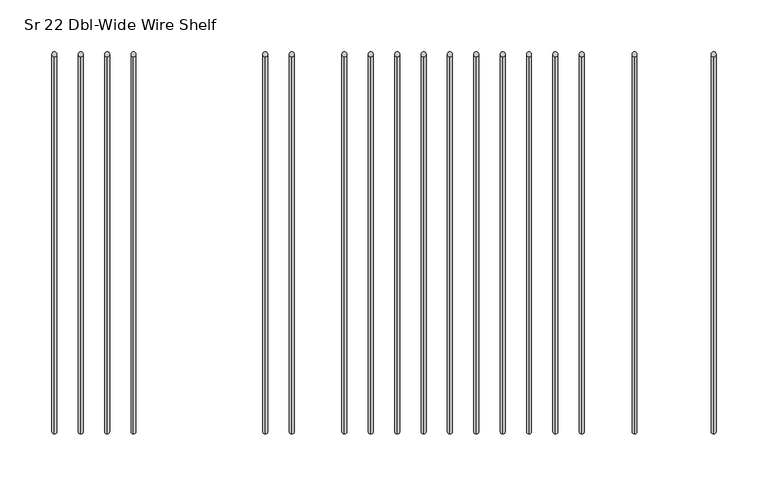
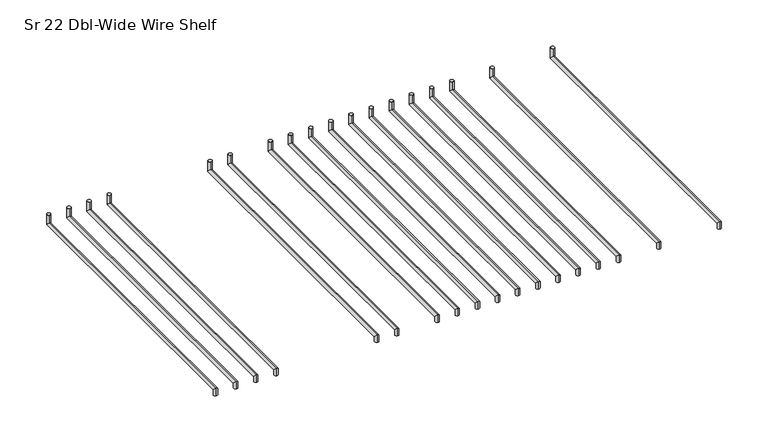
"""IFC4 building model written with IfcOpenShell, lengths in millimetres: furniture geometry, HermanMiller_Carts_CT521_CartShelf : Sr 22 Dbl-Wide Wire Shelf."""

from ifc_helpers import new_model, si_unit, frame, origin, place, context, project, spatial, circle_curve, ellipse_curve, source, transform, mapped, element, save
from ifc_brep_helpers import plane_surface, cylinder_surface, advanced_brep


def sr_22_dbl_wide_wire_shelf_81aa6d03(model_context):
    return source(origin(), model_context, "Body", "AdvancedBrep", [
        advanced_brep(
        [(358.5223083, -206.38135, 2453.2971), (358.5223083, -211.14385, 2453.2971), (358.5223083, -206.38135, 2458.0596), (358.5223083, -211.14385, 2462.8221), (358.5223083, 157.2983379, 2458.0596), (358.5223083, 152.5358379, 2462.8221), (358.5223083, 157.2983379, 2473.3377), (358.5223083, 152.5358379, 2473.3377)],
        [
            (0, 1, circle_curve(frame((358.5223083, -208.7626, 2453.2971), z_axis=(0.0, 0.0, -1.0), x_axis=(0.0, -1.0, 0.0)), 2.38125)),
            (1, 0, circle_curve(frame((358.5223083, -208.7626, 2453.2971), z_axis=(0.0, 0.0, -1.0), x_axis=(0.0, -1.0, 0.0)), 2.38125)),
            (0, 2),
            (2, 3, ellipse_curve(frame((358.5223083, -208.7626, 2460.44085), z_axis=(0.0, -0.7071067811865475, -0.7071067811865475), x_axis=(0.0, 0.7071067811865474, -0.7071067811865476)), 3.367596, 2.38125)),
            (3, 1),
            (3, 2, ellipse_curve(frame((358.5223083, -208.7626, 2460.44085), z_axis=(0.0, -0.7071067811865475, -0.7071067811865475), x_axis=(0.0, 0.7071067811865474, -0.7071067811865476)), 3.367596, 2.38125)),
            (2, 4),
            (4, 5, ellipse_curve(frame((358.5223083, 154.9170879, 2460.44085), z_axis=(0.0, -0.7071067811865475, -0.7071067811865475), x_axis=(0.0, -0.7071067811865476, 0.7071067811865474)), 3.367596, 2.38125)),
            (5, 3),
            (5, 4, ellipse_curve(frame((358.5223083, 154.9170879, 2460.44085), z_axis=(0.0, -0.7071067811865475, -0.7071067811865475), x_axis=(0.0, -0.7071067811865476, 0.7071067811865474)), 3.367596, 2.38125)),
            (6, 7, circle_curve(frame((358.5223083, 154.9170879, 2473.3377), z_axis=(0.0, 0.0, 1.0), x_axis=(0.0, -1.0, 0.0)), 2.38125)),
            (7, 6, circle_curve(frame((358.5223083, 154.9170879, 2473.3377), z_axis=(0.0, 0.0, 1.0), x_axis=(0.0, -1.0, 0.0)), 2.38125)),
            (4, 6),
            (7, 5),
        ],
        [
            plane_surface(frame((358.5223083, -208.7626, 2453.2971), z_axis=(0.0, 0.0, -1.0), x_axis=(1.0, 0.0, 0.0))),
            cylinder_surface(frame((358.5223083, -208.7626, 2453.2971), z_axis=(0.0, 0.0, -1.0), x_axis=(0.0, -1.0, 0.0)), 2.38125),
            cylinder_surface(frame((358.5223083, -208.7626, 2460.44085), z_axis=(0.0, -1.0, 0.0), x_axis=(0.0, 0.0, 1.0)), 2.38125),
            plane_surface(frame((358.5223083, 154.9170879, 2473.3377), z_axis=(0.0, 0.0, 1.0), x_axis=(1.0, 0.0, 0.0))),
            cylinder_surface(frame((358.5223083, 154.9170879, 2460.44085), z_axis=(0.0, 0.0, -1.0), x_axis=(0.0, -1.0, 0.0)), 2.38125),
        ],
        [
            (0, [[1, 2]]),
            (1, [[-1, 3, 4, 5]]),
            (1, [[-2, -5, 6, -3]]),
            (2, [[-4, 7, 8, 9]]),
            (2, [[-6, -9, 10, -7]]),
            (3, [[11, 12]]),
            (4, [[-8, 13, -12, 14]]),
            (4, [[-10, -14, -11, -13]]),
        ],
    ),
        advanced_brep(
        [(282.3223083, -206.38135, 2453.2971), (282.3223083, -211.14385, 2453.2971), (282.3223083, -206.38135, 2458.0596), (282.3223083, -211.14385, 2462.8221), (282.3223083, 157.2983379, 2458.0596), (282.3223083, 152.5358379, 2462.8221), (282.3223083, 157.2983379, 2473.3377), (282.3223083, 152.5358379, 2473.3377)],
        [
            (0, 1, circle_curve(frame((282.3223083, -208.7626, 2453.2971), z_axis=(0.0, 0.0, -1.0), x_axis=(0.0, -1.0, 0.0)), 2.38125)),
            (1, 0, circle_curve(frame((282.3223083, -208.7626, 2453.2971), z_axis=(0.0, 0.0, -1.0), x_axis=(0.0, -1.0, 0.0)), 2.38125)),
            (0, 2),
            (2, 3, ellipse_curve(frame((282.3223083, -208.7626, 2460.44085), z_axis=(0.0, -0.7071067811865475, -0.7071067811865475), x_axis=(0.0, 0.7071067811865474, -0.7071067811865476)), 3.367596, 2.38125)),
            (3, 1),
            (3, 2, ellipse_curve(frame((282.3223083, -208.7626, 2460.44085), z_axis=(0.0, -0.7071067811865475, -0.7071067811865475), x_axis=(0.0, 0.7071067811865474, -0.7071067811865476)), 3.367596, 2.38125)),
            (2, 4),
            (4, 5, ellipse_curve(frame((282.3223083, 154.9170879, 2460.44085), z_axis=(0.0, -0.7071067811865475, -0.7071067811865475), x_axis=(0.0, -0.7071067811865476, 0.7071067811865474)), 3.367596, 2.38125)),
            (5, 3),
            (5, 4, ellipse_curve(frame((282.3223083, 154.9170879, 2460.44085), z_axis=(0.0, -0.7071067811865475, -0.7071067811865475), x_axis=(0.0, -0.7071067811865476, 0.7071067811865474)), 3.367596, 2.38125)),
            (6, 7, circle_curve(frame((282.3223083, 154.9170879, 2473.3377), z_axis=(0.0, 0.0, 1.0), x_axis=(0.0, -1.0, 0.0)), 2.38125)),
            (7, 6, circle_curve(frame((282.3223083, 154.9170879, 2473.3377), z_axis=(0.0, 0.0, 1.0), x_axis=(0.0, -1.0, 0.0)), 2.38125)),
            (4, 6),
            (7, 5),
        ],
        [
            plane_surface(frame((282.3223083, -208.7626, 2453.2971), z_axis=(0.0, 0.0, -1.0), x_axis=(1.0, 0.0, 0.0))),
            cylinder_surface(frame((282.3223083, -208.7626, 2453.2971), z_axis=(0.0, 0.0, -1.0), x_axis=(0.0, -1.0, 0.0)), 2.38125),
            cylinder_surface(frame((282.3223083, -208.7626, 2460.44085), z_axis=(0.0, -1.0, 0.0), x_axis=(0.0, 0.0, 1.0)), 2.38125),
            plane_surface(frame((282.3223083, 154.9170879, 2473.3377), z_axis=(0.0, 0.0, 1.0), x_axis=(1.0, 0.0, 0.0))),
            cylinder_surface(frame((282.3223083, 154.9170879, 2460.44085), z_axis=(0.0, 0.0, -1.0), x_axis=(0.0, -1.0, 0.0)), 2.38125),
        ],
        [
            (0, [[1, 2]]),
            (1, [[-1, 3, 4, 5]]),
            (1, [[-2, -5, 6, -3]]),
            (2, [[-4, 7, 8, 9]]),
            (2, [[-6, -9, 10, -7]]),
            (3, [[11, 12]]),
            (4, [[-8, 13, -12, 14]]),
            (4, [[-10, -14, -11, -13]]),
        ],
    ),
        advanced_brep(
        [(28.3223083, -206.38135, 2453.2971), (28.3223083, -211.14385, 2453.2971), (28.3223083, -206.38135, 2458.0596), (28.3223083, -211.14385, 2462.8221), (28.3223083, 157.2983379, 2458.0596), (28.3223083, 152.5358379, 2462.8221), (28.3223083, 157.2983379, 2473.3377), (28.3223083, 152.5358379, 2473.3377)],
        [
            (0, 1, circle_curve(frame((28.3223083, -208.7626, 2453.2971), z_axis=(0.0, 0.0, -1.0), x_axis=(0.0, -1.0, 0.0)), 2.38125)),
            (1, 0, circle_curve(frame((28.3223083, -208.7626, 2453.2971), z_axis=(0.0, 0.0, -1.0), x_axis=(0.0, -1.0, 0.0)), 2.38125)),
            (0, 2),
            (2, 3, ellipse_curve(frame((28.3223083, -208.7626, 2460.44085), z_axis=(0.0, -0.7071067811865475, -0.7071067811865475), x_axis=(0.0, 0.7071067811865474, -0.7071067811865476)), 3.367596, 2.38125)),
            (3, 1),
            (3, 2, ellipse_curve(frame((28.3223083, -208.7626, 2460.44085), z_axis=(0.0, -0.7071067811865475, -0.7071067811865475), x_axis=(0.0, 0.7071067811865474, -0.7071067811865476)), 3.367596, 2.38125)),
            (2, 4),
            (4, 5, ellipse_curve(frame((28.3223083, 154.9170879, 2460.44085), z_axis=(0.0, -0.7071067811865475, -0.7071067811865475), x_axis=(0.0, -0.7071067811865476, 0.7071067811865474)), 3.367596, 2.38125)),
            (5, 3),
            (5, 4, ellipse_curve(frame((28.3223083, 154.9170879, 2460.44085), z_axis=(0.0, -0.7071067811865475, -0.7071067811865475), x_axis=(0.0, -0.7071067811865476, 0.7071067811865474)), 3.367596, 2.38125)),
            (6, 7, circle_curve(frame((28.3223083, 154.9170879, 2473.3377), z_axis=(0.0, 0.0, 1.0), x_axis=(0.0, -1.0, 0.0)), 2.38125)),
            (7, 6, circle_curve(frame((28.3223083, 154.9170879, 2473.3377), z_axis=(0.0, 0.0, 1.0), x_axis=(0.0, -1.0, 0.0)), 2.38125)),
            (4, 6),
            (7, 5),
        ],
        [
            plane_surface(frame((28.3223083, -208.7626, 2453.2971), z_axis=(0.0, 0.0, -1.0), x_axis=(1.0, 0.0, 0.0))),
            cylinder_surface(frame((28.3223083, -208.7626, 2453.2971), z_axis=(0.0, 0.0, -1.0), x_axis=(0.0, -1.0, 0.0)), 2.38125),
            cylinder_surface(frame((28.3223083, -208.7626, 2460.44085), z_axis=(0.0, -1.0, 0.0), x_axis=(0.0, 0.0, 1.0)), 2.38125),
            plane_surface(frame((28.3223083, 154.9170879, 2473.3377), z_axis=(0.0, 0.0, 1.0), x_axis=(1.0, 0.0, 0.0))),
            cylinder_surface(frame((28.3223083, 154.9170879, 2460.44085), z_axis=(0.0, 0.0, -1.0), x_axis=(0.0, -1.0, 0.0)), 2.38125),
        ],
        [
            (0, [[1, 2]]),
            (1, [[-1, 3, 4, 5]]),
            (1, [[-2, -5, 6, -3]]),
            (2, [[-4, 7, 8, 9]]),
            (2, [[-6, -9, 10, -7]]),
            (3, [[11, 12]]),
            (4, [[-8, 13, -12, 14]]),
            (4, [[-10, -14, -11, -13]]),
        ],
    ),
        advanced_brep(
        [(-47.8776917, -206.38135, 2453.2971), (-47.8776917, -211.14385, 2453.2971), (-47.8776917, -206.38135, 2458.0596), (-47.8776917, -211.14385, 2462.8221), (-47.8776917, 157.2983379, 2458.0596), (-47.8776917, 152.5358379, 2462.8221), (-47.8776917, 157.2983379, 2473.3377), (-47.8776917, 152.5358379, 2473.3377)],
        [
            (0, 1, circle_curve(frame((-47.8776917, -208.7626, 2453.2971), z_axis=(0.0, 0.0, -1.0), x_axis=(0.0, -1.0, 0.0)), 2.38125)),
            (1, 0, circle_curve(frame((-47.8776917, -208.7626, 2453.2971), z_axis=(0.0, 0.0, -1.0), x_axis=(0.0, -1.0, 0.0)), 2.38125)),
            (0, 2),
            (2, 3, ellipse_curve(frame((-47.8776917, -208.7626, 2460.44085), z_axis=(0.0, -0.7071067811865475, -0.7071067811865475), x_axis=(0.0, 0.7071067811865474, -0.7071067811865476)), 3.367596, 2.38125)),
            (3, 1),
            (3, 2, ellipse_curve(frame((-47.8776917, -208.7626, 2460.44085), z_axis=(0.0, -0.7071067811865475, -0.7071067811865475), x_axis=(0.0, 0.7071067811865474, -0.7071067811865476)), 3.367596, 2.38125)),
            (2, 4),
            (4, 5, ellipse_curve(frame((-47.8776917, 154.9170879, 2460.44085), z_axis=(0.0, -0.7071067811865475, -0.7071067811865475), x_axis=(0.0, -0.7071067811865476, 0.7071067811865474)), 3.367596, 2.38125)),
            (5, 3),
            (5, 4, ellipse_curve(frame((-47.8776917, 154.9170879, 2460.44085), z_axis=(0.0, -0.7071067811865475, -0.7071067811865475), x_axis=(0.0, -0.7071067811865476, 0.7071067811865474)), 3.367596, 2.38125)),
            (6, 7, circle_curve(frame((-47.8776917, 154.9170879, 2473.3377), z_axis=(0.0, 0.0, 1.0), x_axis=(0.0, -1.0, 0.0)), 2.38125)),
            (7, 6, circle_curve(frame((-47.8776917, 154.9170879, 2473.3377), z_axis=(0.0, 0.0, 1.0), x_axis=(0.0, -1.0, 0.0)), 2.38125)),
            (4, 6),
            (7, 5),
        ],
        [
            plane_surface(frame((-47.8776917, -208.7626, 2453.2971), z_axis=(0.0, 0.0, -1.0), x_axis=(1.0, 0.0, 0.0))),
            cylinder_surface(frame((-47.8776917, -208.7626, 2453.2971), z_axis=(0.0, 0.0, -1.0), x_axis=(0.0, -1.0, 0.0)), 2.38125),
            cylinder_surface(frame((-47.8776917, -208.7626, 2460.44085), z_axis=(0.0, -1.0, 0.0), x_axis=(0.0, 0.0, 1.0)), 2.38125),
            plane_surface(frame((-47.8776917, 154.9170879, 2473.3377), z_axis=(0.0, 0.0, 1.0), x_axis=(1.0, 0.0, 0.0))),
            cylinder_surface(frame((-47.8776917, 154.9170879, 2460.44085), z_axis=(0.0, 0.0, -1.0), x_axis=(0.0, -1.0, 0.0)), 2.38125),
        ],
        [
            (0, [[1, 2]]),
            (1, [[-1, 3, 4, 5]]),
            (1, [[-2, -5, 6, -3]]),
            (2, [[-4, 7, 8, 9]]),
            (2, [[-6, -9, 10, -7]]),
            (3, [[11, 12]]),
            (4, [[-8, 13, -12, 14]]),
            (4, [[-10, -14, -11, -13]]),
        ],
    ),
        advanced_brep(
        [(-73.2776917, -206.38135, 2453.2971), (-73.2776917, -211.14385, 2453.2971), (-73.2776917, -206.38135, 2458.0596), (-73.2776917, -211.14385, 2462.8221), (-73.2776917, 157.2983379, 2458.0596), (-73.2776917, 152.5358379, 2462.8221), (-73.2776917, 157.2983379, 2473.3377), (-73.2776917, 152.5358379, 2473.3377)],
        [
            (0, 1, circle_curve(frame((-73.2776917, -208.7626, 2453.2971), z_axis=(0.0, 0.0, -1.0), x_axis=(0.0, -1.0, 0.0)), 2.38125)),
            (1, 0, circle_curve(frame((-73.2776917, -208.7626, 2453.2971), z_axis=(0.0, 0.0, -1.0), x_axis=(0.0, -1.0, 0.0)), 2.38125)),
            (0, 2),
            (2, 3, ellipse_curve(frame((-73.2776917, -208.7626, 2460.44085), z_axis=(0.0, -0.7071067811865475, -0.7071067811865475), x_axis=(0.0, 0.7071067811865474, -0.7071067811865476)), 3.367596, 2.38125)),
            (3, 1),
            (3, 2, ellipse_curve(frame((-73.2776917, -208.7626, 2460.44085), z_axis=(0.0, -0.7071067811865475, -0.7071067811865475), x_axis=(0.0, 0.7071067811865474, -0.7071067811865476)), 3.367596, 2.38125)),
            (2, 4),
            (4, 5, ellipse_curve(frame((-73.2776917, 154.9170879, 2460.44085), z_axis=(0.0, -0.7071067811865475, -0.7071067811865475), x_axis=(0.0, -0.7071067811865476, 0.7071067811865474)), 3.367596, 2.38125)),
            (5, 3),
            (5, 4, ellipse_curve(frame((-73.2776917, 154.9170879, 2460.44085), z_axis=(0.0, -0.7071067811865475, -0.7071067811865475), x_axis=(0.0, -0.7071067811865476, 0.7071067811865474)), 3.367596, 2.38125)),
            (6, 7, circle_curve(frame((-73.2776917, 154.9170879, 2473.3377), z_axis=(0.0, 0.0, 1.0), x_axis=(0.0, -1.0, 0.0)), 2.38125)),
            (7, 6, circle_curve(frame((-73.2776917, 154.9170879, 2473.3377), z_axis=(0.0, 0.0, 1.0), x_axis=(0.0, -1.0, 0.0)), 2.38125)),
            (4, 6),
            (7, 5),
        ],
        [
            plane_surface(frame((-73.2776917, -208.7626, 2453.2971), z_axis=(0.0, 0.0, -1.0), x_axis=(1.0, 0.0, 0.0))),
            cylinder_surface(frame((-73.2776917, -208.7626, 2453.2971), z_axis=(0.0, 0.0, -1.0), x_axis=(0.0, -1.0, 0.0)), 2.38125),
            cylinder_surface(frame((-73.2776917, -208.7626, 2460.44085), z_axis=(0.0, -1.0, 0.0), x_axis=(0.0, 0.0, 1.0)), 2.38125),
            plane_surface(frame((-73.2776917, 154.9170879, 2473.3377), z_axis=(0.0, 0.0, 1.0), x_axis=(1.0, 0.0, 0.0))),
            cylinder_surface(frame((-73.2776917, 154.9170879, 2460.44085), z_axis=(0.0, 0.0, -1.0), x_axis=(0.0, -1.0, 0.0)), 2.38125),
        ],
        [
            (0, [[1, 2]]),
            (1, [[-1, 3, 4, 5]]),
            (1, [[-2, -5, 6, -3]]),
            (2, [[-4, 7, 8, 9]]),
            (2, [[-6, -9, 10, -7]]),
            (3, [[11, 12]]),
            (4, [[-8, 13, -12, 14]]),
            (4, [[-10, -14, -11, -13]]),
        ],
    ),
        advanced_brep(
        [(2.9223083, -206.38135, 2453.2971), (2.9223083, -211.14385, 2453.2971), (2.9223083, -206.38135, 2458.0596), (2.9223083, -211.14385, 2462.8221), (2.9223083, 157.2983379, 2458.0596), (2.9223083, 152.5358379, 2462.8221), (2.9223083, 157.2983379, 2473.3377), (2.9223083, 152.5358379, 2473.3377)],
        [
            (0, 1, circle_curve(frame((2.9223083, -208.7626, 2453.2971), z_axis=(0.0, 0.0, -1.0), x_axis=(0.0, -1.0, 0.0)), 2.38125)),
            (1, 0, circle_curve(frame((2.9223083, -208.7626, 2453.2971), z_axis=(0.0, 0.0, -1.0), x_axis=(0.0, -1.0, 0.0)), 2.38125)),
            (0, 2),
            (2, 3, ellipse_curve(frame((2.9223083, -208.7626, 2460.44085), z_axis=(0.0, -0.7071067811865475, -0.7071067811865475), x_axis=(0.0, 0.7071067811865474, -0.7071067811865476)), 3.367596, 2.38125)),
            (3, 1),
            (3, 2, ellipse_curve(frame((2.9223083, -208.7626, 2460.44085), z_axis=(0.0, -0.7071067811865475, -0.7071067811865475), x_axis=(0.0, 0.7071067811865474, -0.7071067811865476)), 3.367596, 2.38125)),
            (2, 4),
            (4, 5, ellipse_curve(frame((2.9223083, 154.9170879, 2460.44085), z_axis=(0.0, -0.7071067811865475, -0.7071067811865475), x_axis=(0.0, -0.7071067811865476, 0.7071067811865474)), 3.367596, 2.38125)),
            (5, 3),
            (5, 4, ellipse_curve(frame((2.9223083, 154.9170879, 2460.44085), z_axis=(0.0, -0.7071067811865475, -0.7071067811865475), x_axis=(0.0, -0.7071067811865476, 0.7071067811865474)), 3.367596, 2.38125)),
            (6, 7, circle_curve(frame((2.9223083, 154.9170879, 2473.3377), z_axis=(0.0, 0.0, 1.0), x_axis=(0.0, -1.0, 0.0)), 2.38125)),
            (7, 6, circle_curve(frame((2.9223083, 154.9170879, 2473.3377), z_axis=(0.0, 0.0, 1.0), x_axis=(0.0, -1.0, 0.0)), 2.38125)),
            (4, 6),
            (7, 5),
        ],
        [
            plane_surface(frame((2.9223083, -208.7626, 2453.2971), z_axis=(0.0, 0.0, -1.0), x_axis=(1.0, 0.0, 0.0))),
            cylinder_surface(frame((2.9223083, -208.7626, 2453.2971), z_axis=(0.0, 0.0, -1.0), x_axis=(0.0, -1.0, 0.0)), 2.38125),
            cylinder_surface(frame((2.9223083, -208.7626, 2460.44085), z_axis=(0.0, -1.0, 0.0), x_axis=(0.0, 0.0, 1.0)), 2.38125),
            plane_surface(frame((2.9223083, 154.9170879, 2473.3377), z_axis=(0.0, 0.0, 1.0), x_axis=(1.0, 0.0, 0.0))),
            cylinder_surface(frame((2.9223083, 154.9170879, 2460.44085), z_axis=(0.0, 0.0, -1.0), x_axis=(0.0, -1.0, 0.0)), 2.38125),
        ],
        [
            (0, [[1, 2]]),
            (1, [[-1, 3, 4, 5]]),
            (1, [[-2, -5, 6, -3]]),
            (2, [[-4, 7, 8, 9]]),
            (2, [[-6, -9, 10, -7]]),
            (3, [[11, 12]]),
            (4, [[-8, 13, -12, 14]]),
            (4, [[-10, -14, -11, -13]]),
        ],
    ),
        advanced_brep(
        [(53.7223083, -206.38135, 2453.2971), (53.7223083, -211.14385, 2453.2971), (53.7223083, -206.38135, 2458.0596), (53.7223083, -211.14385, 2462.8221), (53.7223083, 157.2983379, 2458.0596), (53.7223083, 152.5358379, 2462.8221), (53.7223083, 157.2983379, 2473.3377), (53.7223083, 152.5358379, 2473.3377)],
        [
            (0, 1, circle_curve(frame((53.7223083, -208.7626, 2453.2971), z_axis=(0.0, 0.0, -1.0), x_axis=(0.0, -1.0, 0.0)), 2.38125)),
            (1, 0, circle_curve(frame((53.7223083, -208.7626, 2453.2971), z_axis=(0.0, 0.0, -1.0), x_axis=(0.0, -1.0, 0.0)), 2.38125)),
            (0, 2),
            (2, 3, ellipse_curve(frame((53.7223083, -208.7626, 2460.44085), z_axis=(0.0, -0.7071067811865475, -0.7071067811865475), x_axis=(0.0, 0.7071067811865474, -0.7071067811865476)), 3.367596, 2.38125)),
            (3, 1),
            (3, 2, ellipse_curve(frame((53.7223083, -208.7626, 2460.44085), z_axis=(0.0, -0.7071067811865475, -0.7071067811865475), x_axis=(0.0, 0.7071067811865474, -0.7071067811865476)), 3.367596, 2.38125)),
            (2, 4),
            (4, 5, ellipse_curve(frame((53.7223083, 154.9170879, 2460.44085), z_axis=(0.0, -0.7071067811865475, -0.7071067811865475), x_axis=(0.0, -0.7071067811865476, 0.7071067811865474)), 3.367596, 2.38125)),
            (5, 3),
            (5, 4, ellipse_curve(frame((53.7223083, 154.9170879, 2460.44085), z_axis=(0.0, -0.7071067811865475, -0.7071067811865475), x_axis=(0.0, -0.7071067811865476, 0.7071067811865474)), 3.367596, 2.38125)),
            (6, 7, circle_curve(frame((53.7223083, 154.9170879, 2473.3377), z_axis=(0.0, 0.0, 1.0), x_axis=(0.0, -1.0, 0.0)), 2.38125)),
            (7, 6, circle_curve(frame((53.7223083, 154.9170879, 2473.3377), z_axis=(0.0, 0.0, 1.0), x_axis=(0.0, -1.0, 0.0)), 2.38125)),
            (4, 6),
            (7, 5),
        ],
        [
            plane_surface(frame((53.7223083, -208.7626, 2453.2971), z_axis=(0.0, 0.0, -1.0), x_axis=(1.0, 0.0, 0.0))),
            cylinder_surface(frame((53.7223083, -208.7626, 2453.2971), z_axis=(0.0, 0.0, -1.0), x_axis=(0.0, -1.0, 0.0)), 2.38125),
            cylinder_surface(frame((53.7223083, -208.7626, 2460.44085), z_axis=(0.0, -1.0, 0.0), x_axis=(0.0, 0.0, 1.0)), 2.38125),
            plane_surface(frame((53.7223083, 154.9170879, 2473.3377), z_axis=(0.0, 0.0, 1.0), x_axis=(1.0, 0.0, 0.0))),
            cylinder_surface(frame((53.7223083, 154.9170879, 2460.44085), z_axis=(0.0, 0.0, -1.0), x_axis=(0.0, -1.0, 0.0)), 2.38125),
        ],
        [
            (0, [[1, 2]]),
            (1, [[-1, 3, 4, 5]]),
            (1, [[-2, -5, 6, -3]]),
            (2, [[-4, 7, 8, 9]]),
            (2, [[-6, -9, 10, -7]]),
            (3, [[11, 12]]),
            (4, [[-8, 13, -12, 14]]),
            (4, [[-10, -14, -11, -13]]),
        ],
    ),
        advanced_brep(
        [(79.1223083, -206.38135, 2453.2971), (79.1223083, -211.14385, 2453.2971), (79.1223083, -206.38135, 2458.0596), (79.1223083, -211.14385, 2462.8221), (79.1223083, 157.2983379, 2458.0596), (79.1223083, 152.5358379, 2462.8221), (79.1223083, 157.2983379, 2473.3377), (79.1223083, 152.5358379, 2473.3377)],
        [
            (0, 1, circle_curve(frame((79.1223083, -208.7626, 2453.2971), z_axis=(0.0, 0.0, -1.0), x_axis=(0.0, -1.0, 0.0)), 2.38125)),
            (1, 0, circle_curve(frame((79.1223083, -208.7626, 2453.2971), z_axis=(0.0, 0.0, -1.0), x_axis=(0.0, -1.0, 0.0)), 2.38125)),
            (0, 2),
            (2, 3, ellipse_curve(frame((79.1223083, -208.7626, 2460.44085), z_axis=(0.0, -0.7071067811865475, -0.7071067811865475), x_axis=(0.0, 0.7071067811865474, -0.7071067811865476)), 3.367596, 2.38125)),
            (3, 1),
            (3, 2, ellipse_curve(frame((79.1223083, -208.7626, 2460.44085), z_axis=(0.0, -0.7071067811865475, -0.7071067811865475), x_axis=(0.0, 0.7071067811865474, -0.7071067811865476)), 3.367596, 2.38125)),
            (2, 4),
            (4, 5, ellipse_curve(frame((79.1223083, 154.9170879, 2460.44085), z_axis=(0.0, -0.7071067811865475, -0.7071067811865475), x_axis=(0.0, -0.7071067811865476, 0.7071067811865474)), 3.367596, 2.38125)),
            (5, 3),
            (5, 4, ellipse_curve(frame((79.1223083, 154.9170879, 2460.44085), z_axis=(0.0, -0.7071067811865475, -0.7071067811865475), x_axis=(0.0, -0.7071067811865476, 0.7071067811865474)), 3.367596, 2.38125)),
            (6, 7, circle_curve(frame((79.1223083, 154.9170879, 2473.3377), z_axis=(0.0, 0.0, 1.0), x_axis=(0.0, -1.0, 0.0)), 2.38125)),
            (7, 6, circle_curve(frame((79.1223083, 154.9170879, 2473.3377), z_axis=(0.0, 0.0, 1.0), x_axis=(0.0, -1.0, 0.0)), 2.38125)),
            (4, 6),
            (7, 5),
        ],
        [
            plane_surface(frame((79.1223083, -208.7626, 2453.2971), z_axis=(0.0, 0.0, -1.0), x_axis=(1.0, 0.0, 0.0))),
            cylinder_surface(frame((79.1223083, -208.7626, 2453.2971), z_axis=(0.0, 0.0, -1.0), x_axis=(0.0, -1.0, 0.0)), 2.38125),
            cylinder_surface(frame((79.1223083, -208.7626, 2460.44085), z_axis=(0.0, -1.0, 0.0), x_axis=(0.0, 0.0, 1.0)), 2.38125),
            plane_surface(frame((79.1223083, 154.9170879, 2473.3377), z_axis=(0.0, 0.0, 1.0), x_axis=(1.0, 0.0, 0.0))),
            cylinder_surface(frame((79.1223083, 154.9170879, 2460.44085), z_axis=(0.0, 0.0, -1.0), x_axis=(0.0, -1.0, 0.0)), 2.38125),
        ],
        [
            (0, [[1, 2]]),
            (1, [[-1, 3, 4, 5]]),
            (1, [[-2, -5, 6, -3]]),
            (2, [[-4, 7, 8, 9]]),
            (2, [[-6, -9, 10, -7]]),
            (3, [[11, 12]]),
            (4, [[-8, 13, -12, 14]]),
            (4, [[-10, -14, -11, -13]]),
        ],
    ),
        advanced_brep(
        [(104.5223083, -206.38135, 2453.2971), (104.5223083, -211.14385, 2453.2971), (104.5223083, -206.38135, 2458.0596), (104.5223083, -211.14385, 2462.8221), (104.5223083, 157.2983379, 2458.0596), (104.5223083, 152.5358379, 2462.8221), (104.5223083, 157.2983379, 2473.3377), (104.5223083, 152.5358379, 2473.3377)],
        [
            (0, 1, circle_curve(frame((104.5223083, -208.7626, 2453.2971), z_axis=(0.0, 0.0, -1.0), x_axis=(0.0, -1.0, 0.0)), 2.38125)),
            (1, 0, circle_curve(frame((104.5223083, -208.7626, 2453.2971), z_axis=(0.0, 0.0, -1.0), x_axis=(0.0, -1.0, 0.0)), 2.38125)),
            (0, 2),
            (2, 3, ellipse_curve(frame((104.5223083, -208.7626, 2460.44085), z_axis=(0.0, -0.7071067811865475, -0.7071067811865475), x_axis=(0.0, 0.7071067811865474, -0.7071067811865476)), 3.367596, 2.38125)),
            (3, 1),
            (3, 2, ellipse_curve(frame((104.5223083, -208.7626, 2460.44085), z_axis=(0.0, -0.7071067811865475, -0.7071067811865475), x_axis=(0.0, 0.7071067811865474, -0.7071067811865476)), 3.367596, 2.38125)),
            (2, 4),
            (4, 5, ellipse_curve(frame((104.5223083, 154.9170879, 2460.44085), z_axis=(0.0, -0.7071067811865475, -0.7071067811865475), x_axis=(0.0, -0.7071067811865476, 0.7071067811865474)), 3.367596, 2.38125)),
            (5, 3),
            (5, 4, ellipse_curve(frame((104.5223083, 154.9170879, 2460.44085), z_axis=(0.0, -0.7071067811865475, -0.7071067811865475), x_axis=(0.0, -0.7071067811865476, 0.7071067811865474)), 3.367596, 2.38125)),
            (6, 7, circle_curve(frame((104.5223083, 154.9170879, 2473.3377), z_axis=(0.0, 0.0, 1.0), x_axis=(0.0, -1.0, 0.0)), 2.38125)),
            (7, 6, circle_curve(frame((104.5223083, 154.9170879, 2473.3377), z_axis=(0.0, 0.0, 1.0), x_axis=(0.0, -1.0, 0.0)), 2.38125)),
            (4, 6),
            (7, 5),
        ],
        [
            plane_surface(frame((104.5223083, -208.7626, 2453.2971), z_axis=(0.0, 0.0, -1.0), x_axis=(1.0, 0.0, 0.0))),
            cylinder_surface(frame((104.5223083, -208.7626, 2453.2971), z_axis=(0.0, 0.0, -1.0), x_axis=(0.0, -1.0, 0.0)), 2.38125),
            cylinder_surface(frame((104.5223083, -208.7626, 2460.44085), z_axis=(0.0, -1.0, 0.0), x_axis=(0.0, 0.0, 1.0)), 2.38125),
            plane_surface(frame((104.5223083, 154.9170879, 2473.3377), z_axis=(0.0, 0.0, 1.0), x_axis=(1.0, 0.0, 0.0))),
            cylinder_surface(frame((104.5223083, 154.9170879, 2460.44085), z_axis=(0.0, 0.0, -1.0), x_axis=(0.0, -1.0, 0.0)), 2.38125),
        ],
        [
            (0, [[1, 2]]),
            (1, [[-1, 3, 4, 5]]),
            (1, [[-2, -5, 6, -3]]),
            (2, [[-4, 7, 8, 9]]),
            (2, [[-6, -9, 10, -7]]),
            (3, [[11, 12]]),
            (4, [[-8, 13, -12, 14]]),
            (4, [[-10, -14, -11, -13]]),
        ],
    ),
        advanced_brep(
        [(129.9223083, -206.38135, 2453.2971), (129.9223083, -211.14385, 2453.2971), (129.9223083, -206.38135, 2458.0596), (129.9223083, -211.14385, 2462.8221), (129.9223083, 157.2983379, 2458.0596), (129.9223083, 152.5358379, 2462.8221), (129.9223083, 157.2983379, 2473.3377), (129.9223083, 152.5358379, 2473.3377)],
        [
            (0, 1, circle_curve(frame((129.9223083, -208.7626, 2453.2971), z_axis=(0.0, 0.0, -1.0), x_axis=(0.0, -1.0, 0.0)), 2.38125)),
            (1, 0, circle_curve(frame((129.9223083, -208.7626, 2453.2971), z_axis=(0.0, 0.0, -1.0), x_axis=(0.0, -1.0, 0.0)), 2.38125)),
            (0, 2),
            (2, 3, ellipse_curve(frame((129.9223083, -208.7626, 2460.44085), z_axis=(0.0, -0.7071067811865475, -0.7071067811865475), x_axis=(0.0, 0.7071067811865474, -0.7071067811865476)), 3.367596, 2.38125)),
            (3, 1),
            (3, 2, ellipse_curve(frame((129.9223083, -208.7626, 2460.44085), z_axis=(0.0, -0.7071067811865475, -0.7071067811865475), x_axis=(0.0, 0.7071067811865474, -0.7071067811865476)), 3.367596, 2.38125)),
            (2, 4),
            (4, 5, ellipse_curve(frame((129.9223083, 154.9170879, 2460.44085), z_axis=(0.0, -0.7071067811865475, -0.7071067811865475), x_axis=(0.0, -0.7071067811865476, 0.7071067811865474)), 3.367596, 2.38125)),
            (5, 3),
            (5, 4, ellipse_curve(frame((129.9223083, 154.9170879, 2460.44085), z_axis=(0.0, -0.7071067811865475, -0.7071067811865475), x_axis=(0.0, -0.7071067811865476, 0.7071067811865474)), 3.367596, 2.38125)),
            (6, 7, circle_curve(frame((129.9223083, 154.9170879, 2473.3377), z_axis=(0.0, 0.0, 1.0), x_axis=(0.0, -1.0, 0.0)), 2.38125)),
            (7, 6, circle_curve(frame((129.9223083, 154.9170879, 2473.3377), z_axis=(0.0, 0.0, 1.0), x_axis=(0.0, -1.0, 0.0)), 2.38125)),
            (4, 6),
            (7, 5),
        ],
        [
            plane_surface(frame((129.9223083, -208.7626, 2453.2971), z_axis=(0.0, 0.0, -1.0), x_axis=(1.0, 0.0, 0.0))),
            cylinder_surface(frame((129.9223083, -208.7626, 2453.2971), z_axis=(0.0, 0.0, -1.0), x_axis=(0.0, -1.0, 0.0)), 2.38125),
            cylinder_surface(frame((129.9223083, -208.7626, 2460.44085), z_axis=(0.0, -1.0, 0.0), x_axis=(0.0, 0.0, 1.0)), 2.38125),
            plane_surface(frame((129.9223083, 154.9170879, 2473.3377), z_axis=(0.0, 0.0, 1.0), x_axis=(1.0, 0.0, 0.0))),
            cylinder_surface(frame((129.9223083, 154.9170879, 2460.44085), z_axis=(0.0, 0.0, -1.0), x_axis=(0.0, -1.0, 0.0)), 2.38125),
        ],
        [
            (0, [[1, 2]]),
            (1, [[-1, 3, 4, 5]]),
            (1, [[-2, -5, 6, -3]]),
            (2, [[-4, 7, 8, 9]]),
            (2, [[-6, -9, 10, -7]]),
            (3, [[11, 12]]),
            (4, [[-8, 13, -12, 14]]),
            (4, [[-10, -14, -11, -13]]),
        ],
    ),
        advanced_brep(
        [(155.3223083, -206.38135, 2453.2971), (155.3223083, -211.14385, 2453.2971), (155.3223083, -206.38135, 2458.0596), (155.3223083, -211.14385, 2462.8221), (155.3223083, 157.2983379, 2458.0596), (155.3223083, 152.5358379, 2462.8221), (155.3223083, 157.2983379, 2473.3377), (155.3223083, 152.5358379, 2473.3377)],
        [
            (0, 1, circle_curve(frame((155.3223083, -208.7626, 2453.2971), z_axis=(0.0, 0.0, -1.0), x_axis=(0.0, -1.0, 0.0)), 2.38125)),
            (1, 0, circle_curve(frame((155.3223083, -208.7626, 2453.2971), z_axis=(0.0, 0.0, -1.0), x_axis=(0.0, -1.0, 0.0)), 2.38125)),
            (0, 2),
            (2, 3, ellipse_curve(frame((155.3223083, -208.7626, 2460.44085), z_axis=(0.0, -0.7071067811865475, -0.7071067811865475), x_axis=(0.0, 0.7071067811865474, -0.7071067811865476)), 3.367596, 2.38125)),
            (3, 1),
            (3, 2, ellipse_curve(frame((155.3223083, -208.7626, 2460.44085), z_axis=(0.0, -0.7071067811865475, -0.7071067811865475), x_axis=(0.0, 0.7071067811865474, -0.7071067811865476)), 3.367596, 2.38125)),
            (2, 4),
            (4, 5, ellipse_curve(frame((155.3223083, 154.9170879, 2460.44085), z_axis=(0.0, -0.7071067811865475, -0.7071067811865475), x_axis=(0.0, -0.7071067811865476, 0.7071067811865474)), 3.367596, 2.38125)),
            (5, 3),
            (5, 4, ellipse_curve(frame((155.3223083, 154.9170879, 2460.44085), z_axis=(0.0, -0.7071067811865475, -0.7071067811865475), x_axis=(0.0, -0.7071067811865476, 0.7071067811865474)), 3.367596, 2.38125)),
            (6, 7, circle_curve(frame((155.3223083, 154.9170879, 2473.3377), z_axis=(0.0, 0.0, 1.0), x_axis=(0.0, -1.0, 0.0)), 2.38125)),
            (7, 6, circle_curve(frame((155.3223083, 154.9170879, 2473.3377), z_axis=(0.0, 0.0, 1.0), x_axis=(0.0, -1.0, 0.0)), 2.38125)),
            (4, 6),
            (7, 5),
        ],
        [
            plane_surface(frame((155.3223083, -208.7626, 2453.2971), z_axis=(0.0, 0.0, -1.0), x_axis=(1.0, 0.0, 0.0))),
            cylinder_surface(frame((155.3223083, -208.7626, 2453.2971), z_axis=(0.0, 0.0, -1.0), x_axis=(0.0, -1.0, 0.0)), 2.38125),
            cylinder_surface(frame((155.3223083, -208.7626, 2460.44085), z_axis=(0.0, -1.0, 0.0), x_axis=(0.0, 0.0, 1.0)), 2.38125),
            plane_surface(frame((155.3223083, 154.9170879, 2473.3377), z_axis=(0.0, 0.0, 1.0), x_axis=(1.0, 0.0, 0.0))),
            cylinder_surface(frame((155.3223083, 154.9170879, 2460.44085), z_axis=(0.0, 0.0, -1.0), x_axis=(0.0, -1.0, 0.0)), 2.38125),
        ],
        [
            (0, [[1, 2]]),
            (1, [[-1, 3, 4, 5]]),
            (1, [[-2, -5, 6, -3]]),
            (2, [[-4, 7, 8, 9]]),
            (2, [[-6, -9, 10, -7]]),
            (3, [[11, 12]]),
            (4, [[-8, 13, -12, 14]]),
            (4, [[-10, -14, -11, -13]]),
        ],
    ),
        advanced_brep(
        [(180.7223083, -206.38135, 2453.2971), (180.7223083, -211.14385, 2453.2971), (180.7223083, -206.38135, 2458.0596), (180.7223083, -211.14385, 2462.8221), (180.7223083, 157.2983379, 2458.0596), (180.7223083, 152.5358379, 2462.8221), (180.7223083, 157.2983379, 2473.3377), (180.7223083, 152.5358379, 2473.3377)],
        [
            (0, 1, circle_curve(frame((180.7223083, -208.7626, 2453.2971), z_axis=(0.0, 0.0, -1.0), x_axis=(0.0, -1.0, 0.0)), 2.38125)),
            (1, 0, circle_curve(frame((180.7223083, -208.7626, 2453.2971), z_axis=(0.0, 0.0, -1.0), x_axis=(0.0, -1.0, 0.0)), 2.38125)),
            (0, 2),
            (2, 3, ellipse_curve(frame((180.7223083, -208.7626, 2460.44085), z_axis=(0.0, -0.7071067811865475, -0.7071067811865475), x_axis=(0.0, 0.7071067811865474, -0.7071067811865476)), 3.367596, 2.38125)),
            (3, 1),
            (3, 2, ellipse_curve(frame((180.7223083, -208.7626, 2460.44085), z_axis=(0.0, -0.7071067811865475, -0.7071067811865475), x_axis=(0.0, 0.7071067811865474, -0.7071067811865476)), 3.367596, 2.38125)),
            (2, 4),
            (4, 5, ellipse_curve(frame((180.7223083, 154.9170879, 2460.44085), z_axis=(0.0, -0.7071067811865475, -0.7071067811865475), x_axis=(0.0, -0.7071067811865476, 0.7071067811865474)), 3.367596, 2.38125)),
            (5, 3),
            (5, 4, ellipse_curve(frame((180.7223083, 154.9170879, 2460.44085), z_axis=(0.0, -0.7071067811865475, -0.7071067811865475), x_axis=(0.0, -0.7071067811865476, 0.7071067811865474)), 3.367596, 2.38125)),
            (6, 7, circle_curve(frame((180.7223083, 154.9170879, 2473.3377), z_axis=(0.0, 0.0, 1.0), x_axis=(0.0, -1.0, 0.0)), 2.38125)),
            (7, 6, circle_curve(frame((180.7223083, 154.9170879, 2473.3377), z_axis=(0.0, 0.0, 1.0), x_axis=(0.0, -1.0, 0.0)), 2.38125)),
            (4, 6),
            (7, 5),
        ],
        [
            plane_surface(frame((180.7223083, -208.7626, 2453.2971), z_axis=(0.0, 0.0, -1.0), x_axis=(1.0, 0.0, 0.0))),
            cylinder_surface(frame((180.7223083, -208.7626, 2453.2971), z_axis=(0.0, 0.0, -1.0), x_axis=(0.0, -1.0, 0.0)), 2.38125),
            cylinder_surface(frame((180.7223083, -208.7626, 2460.44085), z_axis=(0.0, -1.0, 0.0), x_axis=(0.0, 0.0, 1.0)), 2.38125),
            plane_surface(frame((180.7223083, 154.9170879, 2473.3377), z_axis=(0.0, 0.0, 1.0), x_axis=(1.0, 0.0, 0.0))),
            cylinder_surface(frame((180.7223083, 154.9170879, 2460.44085), z_axis=(0.0, 0.0, -1.0), x_axis=(0.0, -1.0, 0.0)), 2.38125),
        ],
        [
            (0, [[1, 2]]),
            (1, [[-1, 3, 4, 5]]),
            (1, [[-2, -5, 6, -3]]),
            (2, [[-4, 7, 8, 9]]),
            (2, [[-6, -9, 10, -7]]),
            (3, [[11, 12]]),
            (4, [[-8, 13, -12, 14]]),
            (4, [[-10, -14, -11, -13]]),
        ],
    ),
        advanced_brep(
        [(206.1223083, -206.38135, 2453.2971), (206.1223083, -211.14385, 2453.2971), (206.1223083, -206.38135, 2458.0596), (206.1223083, -211.14385, 2462.8221), (206.1223083, 157.2983379, 2458.0596), (206.1223083, 152.5358379, 2462.8221), (206.1223083, 157.2983379, 2473.3377), (206.1223083, 152.5358379, 2473.3377)],
        [
            (0, 1, circle_curve(frame((206.1223083, -208.7626, 2453.2971), z_axis=(0.0, 0.0, -1.0), x_axis=(0.0, -1.0, 0.0)), 2.38125)),
            (1, 0, circle_curve(frame((206.1223083, -208.7626, 2453.2971), z_axis=(0.0, 0.0, -1.0), x_axis=(0.0, -1.0, 0.0)), 2.38125)),
            (0, 2),
            (2, 3, ellipse_curve(frame((206.1223083, -208.7626, 2460.44085), z_axis=(0.0, -0.7071067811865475, -0.7071067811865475), x_axis=(0.0, 0.7071067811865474, -0.7071067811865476)), 3.367596, 2.38125)),
            (3, 1),
            (3, 2, ellipse_curve(frame((206.1223083, -208.7626, 2460.44085), z_axis=(0.0, -0.7071067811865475, -0.7071067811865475), x_axis=(0.0, 0.7071067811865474, -0.7071067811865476)), 3.367596, 2.38125)),
            (2, 4),
            (4, 5, ellipse_curve(frame((206.1223083, 154.9170879, 2460.44085), z_axis=(0.0, -0.7071067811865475, -0.7071067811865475), x_axis=(0.0, -0.7071067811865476, 0.7071067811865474)), 3.367596, 2.38125)),
            (5, 3),
            (5, 4, ellipse_curve(frame((206.1223083, 154.9170879, 2460.44085), z_axis=(0.0, -0.7071067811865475, -0.7071067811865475), x_axis=(0.0, -0.7071067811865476, 0.7071067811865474)), 3.367596, 2.38125)),
            (6, 7, circle_curve(frame((206.1223083, 154.9170879, 2473.3377), z_axis=(0.0, 0.0, 1.0), x_axis=(0.0, -1.0, 0.0)), 2.38125)),
            (7, 6, circle_curve(frame((206.1223083, 154.9170879, 2473.3377), z_axis=(0.0, 0.0, 1.0), x_axis=(0.0, -1.0, 0.0)), 2.38125)),
            (4, 6),
            (7, 5),
        ],
        [
            plane_surface(frame((206.1223083, -208.7626, 2453.2971), z_axis=(0.0, 0.0, -1.0), x_axis=(1.0, 0.0, 0.0))),
            cylinder_surface(frame((206.1223083, -208.7626, 2453.2971), z_axis=(0.0, 0.0, -1.0), x_axis=(0.0, -1.0, 0.0)), 2.38125),
            cylinder_surface(frame((206.1223083, -208.7626, 2460.44085), z_axis=(0.0, -1.0, 0.0), x_axis=(0.0, 0.0, 1.0)), 2.38125),
            plane_surface(frame((206.1223083, 154.9170879, 2473.3377), z_axis=(0.0, 0.0, 1.0), x_axis=(1.0, 0.0, 0.0))),
            cylinder_surface(frame((206.1223083, 154.9170879, 2460.44085), z_axis=(0.0, 0.0, -1.0), x_axis=(0.0, -1.0, 0.0)), 2.38125),
        ],
        [
            (0, [[1, 2]]),
            (1, [[-1, 3, 4, 5]]),
            (1, [[-2, -5, 6, -3]]),
            (2, [[-4, 7, 8, 9]]),
            (2, [[-6, -9, 10, -7]]),
            (3, [[11, 12]]),
            (4, [[-8, 13, -12, 14]]),
            (4, [[-10, -14, -11, -13]]),
        ],
    ),
        advanced_brep(
        [(231.5223083, -206.38135, 2453.2971), (231.5223083, -211.14385, 2453.2971), (231.5223083, -206.38135, 2458.0596), (231.5223083, -211.14385, 2462.8221), (231.5223083, 157.2983379, 2458.0596), (231.5223083, 152.5358379, 2462.8221), (231.5223083, 157.2983379, 2473.3377), (231.5223083, 152.5358379, 2473.3377)],
        [
            (0, 1, circle_curve(frame((231.5223083, -208.7626, 2453.2971), z_axis=(0.0, 0.0, -1.0), x_axis=(0.0, -1.0, 0.0)), 2.38125)),
            (1, 0, circle_curve(frame((231.5223083, -208.7626, 2453.2971), z_axis=(0.0, 0.0, -1.0), x_axis=(0.0, -1.0, 0.0)), 2.38125)),
            (0, 2),
            (2, 3, ellipse_curve(frame((231.5223083, -208.7626, 2460.44085), z_axis=(0.0, -0.7071067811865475, -0.7071067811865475), x_axis=(0.0, 0.7071067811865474, -0.7071067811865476)), 3.367596, 2.38125)),
            (3, 1),
            (3, 2, ellipse_curve(frame((231.5223083, -208.7626, 2460.44085), z_axis=(0.0, -0.7071067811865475, -0.7071067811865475), x_axis=(0.0, 0.7071067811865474, -0.7071067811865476)), 3.367596, 2.38125)),
            (2, 4),
            (4, 5, ellipse_curve(frame((231.5223083, 154.9170879, 2460.44085), z_axis=(0.0, -0.7071067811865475, -0.7071067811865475), x_axis=(0.0, -0.7071067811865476, 0.7071067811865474)), 3.367596, 2.38125)),
            (5, 3),
            (5, 4, ellipse_curve(frame((231.5223083, 154.9170879, 2460.44085), z_axis=(0.0, -0.7071067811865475, -0.7071067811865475), x_axis=(0.0, -0.7071067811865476, 0.7071067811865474)), 3.367596, 2.38125)),
            (6, 7, circle_curve(frame((231.5223083, 154.9170879, 2473.3377), z_axis=(0.0, 0.0, 1.0), x_axis=(0.0, -1.0, 0.0)), 2.38125)),
            (7, 6, circle_curve(frame((231.5223083, 154.9170879, 2473.3377), z_axis=(0.0, 0.0, 1.0), x_axis=(0.0, -1.0, 0.0)), 2.38125)),
            (4, 6),
            (7, 5),
        ],
        [
            plane_surface(frame((231.5223083, -208.7626, 2453.2971), z_axis=(0.0, 0.0, -1.0), x_axis=(1.0, 0.0, 0.0))),
            cylinder_surface(frame((231.5223083, -208.7626, 2453.2971), z_axis=(0.0, 0.0, -1.0), x_axis=(0.0, -1.0, 0.0)), 2.38125),
            cylinder_surface(frame((231.5223083, -208.7626, 2460.44085), z_axis=(0.0, -1.0, 0.0), x_axis=(0.0, 0.0, 1.0)), 2.38125),
            plane_surface(frame((231.5223083, 154.9170879, 2473.3377), z_axis=(0.0, 0.0, 1.0), x_axis=(1.0, 0.0, 0.0))),
            cylinder_surface(frame((231.5223083, 154.9170879, 2460.44085), z_axis=(0.0, 0.0, -1.0), x_axis=(0.0, -1.0, 0.0)), 2.38125),
        ],
        [
            (0, [[1, 2]]),
            (1, [[-1, 3, 4, 5]]),
            (1, [[-2, -5, 6, -3]]),
            (2, [[-4, 7, 8, 9]]),
            (2, [[-6, -9, 10, -7]]),
            (3, [[11, 12]]),
            (4, [[-8, 13, -12, 14]]),
            (4, [[-10, -14, -11, -13]]),
        ],
    ),
        advanced_brep(
        [(-225.6776917, -206.38135, 2453.2971), (-225.6776917, -211.14385, 2453.2971), (-225.6776917, -206.38135, 2458.0596), (-225.6776917, -211.14385, 2462.8221), (-225.6776917, 157.2983379, 2458.0596), (-225.6776917, 152.5358379, 2462.8221), (-225.6776917, 157.2983379, 2473.3377), (-225.6776917, 152.5358379, 2473.3377)],
        [
            (0, 1, circle_curve(frame((-225.6776917, -208.7626, 2453.2971), z_axis=(0.0, 0.0, -1.0), x_axis=(0.0, -1.0, 0.0)), 2.38125)),
            (1, 0, circle_curve(frame((-225.6776917, -208.7626, 2453.2971), z_axis=(0.0, 0.0, -1.0), x_axis=(0.0, -1.0, 0.0)), 2.38125)),
            (0, 2),
            (2, 3, ellipse_curve(frame((-225.6776917, -208.7626, 2460.44085), z_axis=(0.0, -0.7071067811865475, -0.7071067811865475), x_axis=(0.0, 0.7071067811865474, -0.7071067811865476)), 3.367596, 2.38125)),
            (3, 1),
            (3, 2, ellipse_curve(frame((-225.6776917, -208.7626, 2460.44085), z_axis=(0.0, -0.7071067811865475, -0.7071067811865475), x_axis=(0.0, 0.7071067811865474, -0.7071067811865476)), 3.367596, 2.38125)),
            (2, 4),
            (4, 5, ellipse_curve(frame((-225.6776917, 154.9170879, 2460.44085), z_axis=(0.0, -0.7071067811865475, -0.7071067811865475), x_axis=(0.0, -0.7071067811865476, 0.7071067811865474)), 3.367596, 2.38125)),
            (5, 3),
            (5, 4, ellipse_curve(frame((-225.6776917, 154.9170879, 2460.44085), z_axis=(0.0, -0.7071067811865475, -0.7071067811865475), x_axis=(0.0, -0.7071067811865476, 0.7071067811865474)), 3.367596, 2.38125)),
            (6, 7, circle_curve(frame((-225.6776917, 154.9170879, 2473.3377), z_axis=(0.0, 0.0, 1.0), x_axis=(0.0, -1.0, 0.0)), 2.38125)),
            (7, 6, circle_curve(frame((-225.6776917, 154.9170879, 2473.3377), z_axis=(0.0, 0.0, 1.0), x_axis=(0.0, -1.0, 0.0)), 2.38125)),
            (4, 6),
            (7, 5),
        ],
        [
            plane_surface(frame((-225.6776917, -208.7626, 2453.2971), z_axis=(0.0, 0.0, -1.0), x_axis=(1.0, 0.0, 0.0))),
            cylinder_surface(frame((-225.6776917, -208.7626, 2453.2971), z_axis=(0.0, 0.0, -1.0), x_axis=(0.0, -1.0, 0.0)), 2.38125),
            cylinder_surface(frame((-225.6776917, -208.7626, 2460.44085), z_axis=(0.0, -1.0, 0.0), x_axis=(0.0, 0.0, 1.0)), 2.38125),
            plane_surface(frame((-225.6776917, 154.9170879, 2473.3377), z_axis=(0.0, 0.0, 1.0), x_axis=(1.0, 0.0, 0.0))),
            cylinder_surface(frame((-225.6776917, 154.9170879, 2460.44085), z_axis=(0.0, 0.0, -1.0), x_axis=(0.0, -1.0, 0.0)), 2.38125),
        ],
        [
            (0, [[1, 2]]),
            (1, [[-1, 3, 4, 5]]),
            (1, [[-2, -5, 6, -3]]),
            (2, [[-4, 7, 8, 9]]),
            (2, [[-6, -9, 10, -7]]),
            (3, [[11, 12]]),
            (4, [[-8, 13, -12, 14]]),
            (4, [[-10, -14, -11, -13]]),
        ],
    ),
        advanced_brep(
        [(-200.2776917, -206.38135, 2453.2971), (-200.2776917, -211.14385, 2453.2971), (-200.2776917, -206.38135, 2458.0596), (-200.2776917, -211.14385, 2462.8221), (-200.2776917, 157.2983379, 2458.0596), (-200.2776917, 152.5358379, 2462.8221), (-200.2776917, 157.2983379, 2473.3377), (-200.2776917, 152.5358379, 2473.3377)],
        [
            (0, 1, circle_curve(frame((-200.2776917, -208.7626, 2453.2971), z_axis=(0.0, 0.0, -1.0), x_axis=(0.0, -1.0, 0.0)), 2.38125)),
            (1, 0, circle_curve(frame((-200.2776917, -208.7626, 2453.2971), z_axis=(0.0, 0.0, -1.0), x_axis=(0.0, -1.0, 0.0)), 2.38125)),
            (0, 2),
            (2, 3, ellipse_curve(frame((-200.2776917, -208.7626, 2460.44085), z_axis=(0.0, -0.7071067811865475, -0.7071067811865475), x_axis=(0.0, 0.7071067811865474, -0.7071067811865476)), 3.367596, 2.38125)),
            (3, 1),
            (3, 2, ellipse_curve(frame((-200.2776917, -208.7626, 2460.44085), z_axis=(0.0, -0.7071067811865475, -0.7071067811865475), x_axis=(0.0, 0.7071067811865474, -0.7071067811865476)), 3.367596, 2.38125)),
            (2, 4),
            (4, 5, ellipse_curve(frame((-200.2776917, 154.9170879, 2460.44085), z_axis=(0.0, -0.7071067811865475, -0.7071067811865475), x_axis=(0.0, -0.7071067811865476, 0.7071067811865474)), 3.367596, 2.38125)),
            (5, 3),
            (5, 4, ellipse_curve(frame((-200.2776917, 154.9170879, 2460.44085), z_axis=(0.0, -0.7071067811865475, -0.7071067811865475), x_axis=(0.0, -0.7071067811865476, 0.7071067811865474)), 3.367596, 2.38125)),
            (6, 7, circle_curve(frame((-200.2776917, 154.9170879, 2473.3377), z_axis=(0.0, 0.0, 1.0), x_axis=(0.0, -1.0, 0.0)), 2.38125)),
            (7, 6, circle_curve(frame((-200.2776917, 154.9170879, 2473.3377), z_axis=(0.0, 0.0, 1.0), x_axis=(0.0, -1.0, 0.0)), 2.38125)),
            (4, 6),
            (7, 5),
        ],
        [
            plane_surface(frame((-200.2776917, -208.7626, 2453.2971), z_axis=(0.0, 0.0, -1.0), x_axis=(1.0, 0.0, 0.0))),
            cylinder_surface(frame((-200.2776917, -208.7626, 2453.2971), z_axis=(0.0, 0.0, -1.0), x_axis=(0.0, -1.0, 0.0)), 2.38125),
            cylinder_surface(frame((-200.2776917, -208.7626, 2460.44085), z_axis=(0.0, -1.0, 0.0), x_axis=(0.0, 0.0, 1.0)), 2.38125),
            plane_surface(frame((-200.2776917, 154.9170879, 2473.3377), z_axis=(0.0, 0.0, 1.0), x_axis=(1.0, 0.0, 0.0))),
            cylinder_surface(frame((-200.2776917, 154.9170879, 2460.44085), z_axis=(0.0, 0.0, -1.0), x_axis=(0.0, -1.0, 0.0)), 2.38125),
        ],
        [
            (0, [[1, 2]]),
            (1, [[-1, 3, 4, 5]]),
            (1, [[-2, -5, 6, -3]]),
            (2, [[-4, 7, 8, 9]]),
            (2, [[-6, -9, 10, -7]]),
            (3, [[11, 12]]),
            (4, [[-8, 13, -12, 14]]),
            (4, [[-10, -14, -11, -13]]),
        ],
    ),
        advanced_brep(
        [(-251.0776917, -206.38135, 2453.2971), (-251.0776917, -211.14385, 2453.2971), (-251.0776917, -206.38135, 2458.0596), (-251.0776917, -211.14385, 2462.8221), (-251.0776917, 157.2983379, 2458.0596), (-251.0776917, 152.5358379, 2462.8221), (-251.0776917, 157.2983379, 2473.3377), (-251.0776917, 152.5358379, 2473.3377)],
        [
            (0, 1, circle_curve(frame((-251.0776917, -208.7626, 2453.2971), z_axis=(0.0, 0.0, -1.0), x_axis=(0.0, -1.0, 0.0)), 2.38125)),
            (1, 0, circle_curve(frame((-251.0776917, -208.7626, 2453.2971), z_axis=(0.0, 0.0, -1.0), x_axis=(0.0, -1.0, 0.0)), 2.38125)),
            (0, 2),
            (2, 3, ellipse_curve(frame((-251.0776917, -208.7626, 2460.44085), z_axis=(0.0, -0.7071067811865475, -0.7071067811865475), x_axis=(0.0, 0.7071067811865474, -0.7071067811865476)), 3.367596, 2.38125)),
            (3, 1),
            (3, 2, ellipse_curve(frame((-251.0776917, -208.7626, 2460.44085), z_axis=(0.0, -0.7071067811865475, -0.7071067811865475), x_axis=(0.0, 0.7071067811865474, -0.7071067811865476)), 3.367596, 2.38125)),
            (2, 4),
            (4, 5, ellipse_curve(frame((-251.0776917, 154.9170879, 2460.44085), z_axis=(0.0, -0.7071067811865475, -0.7071067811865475), x_axis=(0.0, -0.7071067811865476, 0.7071067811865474)), 3.367596, 2.38125)),
            (5, 3),
            (5, 4, ellipse_curve(frame((-251.0776917, 154.9170879, 2460.44085), z_axis=(0.0, -0.7071067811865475, -0.7071067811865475), x_axis=(0.0, -0.7071067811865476, 0.7071067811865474)), 3.367596, 2.38125)),
            (6, 7, circle_curve(frame((-251.0776917, 154.9170879, 2473.3377), z_axis=(0.0, 0.0, 1.0), x_axis=(0.0, -1.0, 0.0)), 2.38125)),
            (7, 6, circle_curve(frame((-251.0776917, 154.9170879, 2473.3377), z_axis=(0.0, 0.0, 1.0), x_axis=(0.0, -1.0, 0.0)), 2.38125)),
            (4, 6),
            (7, 5),
        ],
        [
            plane_surface(frame((-251.0776917, -208.7626, 2453.2971), z_axis=(0.0, 0.0, -1.0), x_axis=(1.0, 0.0, 0.0))),
            cylinder_surface(frame((-251.0776917, -208.7626, 2453.2971), z_axis=(0.0, 0.0, -1.0), x_axis=(0.0, -1.0, 0.0)), 2.38125),
            cylinder_surface(frame((-251.0776917, -208.7626, 2460.44085), z_axis=(0.0, -1.0, 0.0), x_axis=(0.0, 0.0, 1.0)), 2.38125),
            plane_surface(frame((-251.0776917, 154.9170879, 2473.3377), z_axis=(0.0, 0.0, 1.0), x_axis=(1.0, 0.0, 0.0))),
            cylinder_surface(frame((-251.0776917, 154.9170879, 2460.44085), z_axis=(0.0, 0.0, -1.0), x_axis=(0.0, -1.0, 0.0)), 2.38125),
        ],
        [
            (0, [[1, 2]]),
            (1, [[-1, 3, 4, 5]]),
            (1, [[-2, -5, 6, -3]]),
            (2, [[-4, 7, 8, 9]]),
            (2, [[-6, -9, 10, -7]]),
            (3, [[11, 12]]),
            (4, [[-8, 13, -12, 14]]),
            (4, [[-10, -14, -11, -13]]),
        ],
    ),
        advanced_brep(
        [(-276.4776917, -206.38135, 2453.2971), (-276.4776917, -211.14385, 2453.2971), (-276.4776917, -206.38135, 2458.0596), (-276.4776917, -211.14385, 2462.8221), (-276.4776917, 157.2983379, 2458.0596), (-276.4776917, 152.5358379, 2462.8221), (-276.4776917, 157.2983379, 2473.3377), (-276.4776917, 152.5358379, 2473.3377)],
        [
            (0, 1, circle_curve(frame((-276.4776917, -208.7626, 2453.2971), z_axis=(0.0, 0.0, -1.0), x_axis=(0.0, -1.0, 0.0)), 2.38125)),
            (1, 0, circle_curve(frame((-276.4776917, -208.7626, 2453.2971), z_axis=(0.0, 0.0, -1.0), x_axis=(0.0, -1.0, 0.0)), 2.38125)),
            (0, 2),
            (2, 3, ellipse_curve(frame((-276.4776917, -208.7626, 2460.44085), z_axis=(0.0, -0.7071067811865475, -0.7071067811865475), x_axis=(0.0, 0.7071067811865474, -0.7071067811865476)), 3.367596, 2.38125)),
            (3, 1),
            (3, 2, ellipse_curve(frame((-276.4776917, -208.7626, 2460.44085), z_axis=(0.0, -0.7071067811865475, -0.7071067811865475), x_axis=(0.0, 0.7071067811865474, -0.7071067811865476)), 3.367596, 2.38125)),
            (2, 4),
            (4, 5, ellipse_curve(frame((-276.4776917, 154.9170879, 2460.44085), z_axis=(0.0, -0.7071067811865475, -0.7071067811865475), x_axis=(0.0, -0.7071067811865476, 0.7071067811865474)), 3.367596, 2.38125)),
            (5, 3),
            (5, 4, ellipse_curve(frame((-276.4776917, 154.9170879, 2460.44085), z_axis=(0.0, -0.7071067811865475, -0.7071067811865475), x_axis=(0.0, -0.7071067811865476, 0.7071067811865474)), 3.367596, 2.38125)),
            (6, 7, circle_curve(frame((-276.4776917, 154.9170879, 2473.3377), z_axis=(0.0, 0.0, 1.0), x_axis=(0.0, -1.0, 0.0)), 2.38125)),
            (7, 6, circle_curve(frame((-276.4776917, 154.9170879, 2473.3377), z_axis=(0.0, 0.0, 1.0), x_axis=(0.0, -1.0, 0.0)), 2.38125)),
            (4, 6),
            (7, 5),
        ],
        [
            plane_surface(frame((-276.4776917, -208.7626, 2453.2971), z_axis=(0.0, 0.0, -1.0), x_axis=(1.0, 0.0, 0.0))),
            cylinder_surface(frame((-276.4776917, -208.7626, 2453.2971), z_axis=(0.0, 0.0, -1.0), x_axis=(0.0, -1.0, 0.0)), 2.38125),
            cylinder_surface(frame((-276.4776917, -208.7626, 2460.44085), z_axis=(0.0, -1.0, 0.0), x_axis=(0.0, 0.0, 1.0)), 2.38125),
            plane_surface(frame((-276.4776917, 154.9170879, 2473.3377), z_axis=(0.0, 0.0, 1.0), x_axis=(1.0, 0.0, 0.0))),
            cylinder_surface(frame((-276.4776917, 154.9170879, 2460.44085), z_axis=(0.0, 0.0, -1.0), x_axis=(0.0, -1.0, 0.0)), 2.38125),
        ],
        [
            (0, [[1, 2]]),
            (1, [[-1, 3, 4, 5]]),
            (1, [[-2, -5, 6, -3]]),
            (2, [[-4, 7, 8, 9]]),
            (2, [[-6, -9, 10, -7]]),
            (3, [[11, 12]]),
            (4, [[-8, 13, -12, 14]]),
            (4, [[-10, -14, -11, -13]]),
        ],
    ),
    ])


if __name__ == "__main__":
    model = new_model("IFC4")
    model_context = context("Model", 3, world=origin())
    ifc_project = project(units=[si_unit("LENGTHUNIT", "METRE", prefix="MILLI")], contexts=[model_context])
    site = spatial("IfcSite", under=ifc_project)
    building = spatial("IfcBuilding", under=site)
    placement = place(None, origin())
    sr_22_dbl_wide_wire_shelf_shape = sr_22_dbl_wide_wire_shelf_81aa6d03(model_context)
    element("IfcFurniture", 1, ObjectType="HermanMiller_Carts_CT521_CartShelf : Sr 22 Dbl-Wide Wire Shelf", at=placement, inside=building, context=model_context, shape_type="MappedRepresentation", body=[
        mapped(sr_22_dbl_wide_wire_shelf_shape, transform((0.0, 0.0, 0.0), x_axis=(1.0, 0.0, 0.0), y_axis=(0.0, 1.0, 0.0), z_axis=(0.0, 0.0, 1.0))),
    ])
    save(model, "model.ifc")
